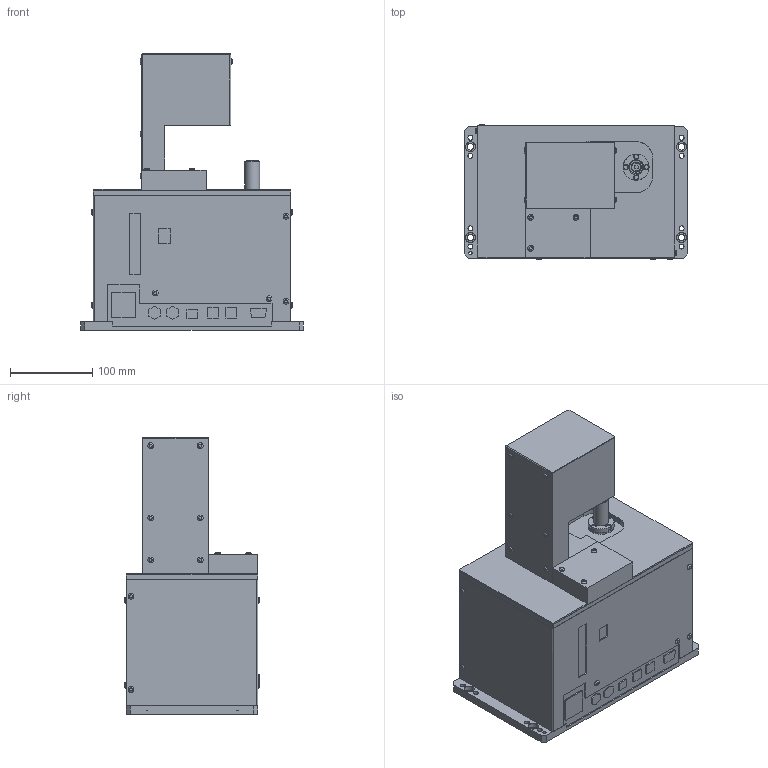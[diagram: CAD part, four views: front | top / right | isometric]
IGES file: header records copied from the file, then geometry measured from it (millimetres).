
Global section: file name: SAL3262HV-12141; native system: Autodesk Inventor 2016; preprocessor: unknown; author: m-takamori; date: 20161125.141647; units: millimetre
Bounding box: 270 x 163.78 x 335 mm (x, y, z)
Volume: 7677597.2 mm3; surface area: 307045.3 mm2
Topology: 2 solids, 2 shells, 288 faces, 753 edges, 515 vertices
Faces by surface type: bspline 288
